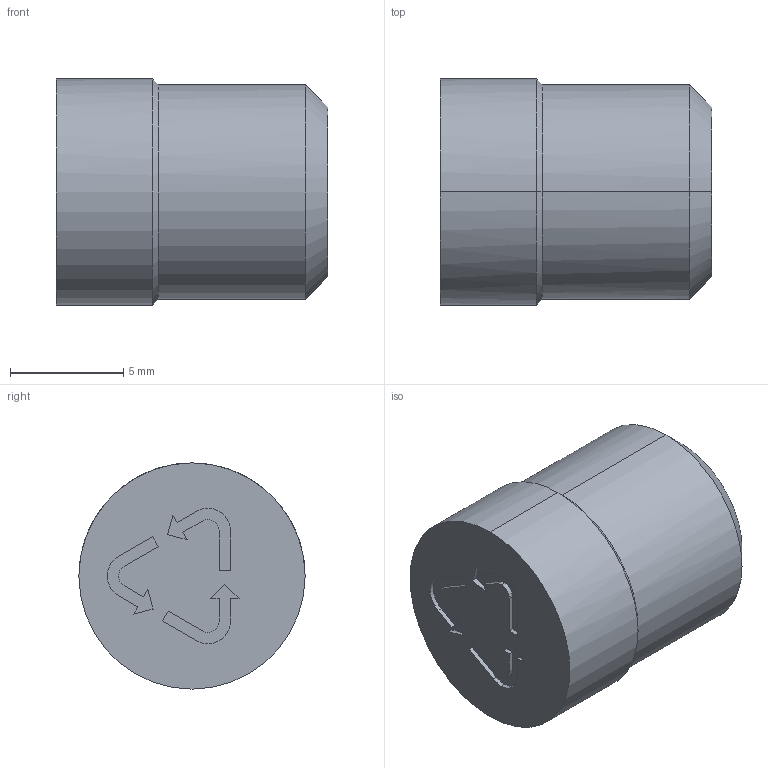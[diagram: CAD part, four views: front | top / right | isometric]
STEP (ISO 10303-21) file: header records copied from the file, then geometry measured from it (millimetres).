
FILE_DESCRIPTION(('CATIA V5 STEP Exchange'),'2;1');
FILE_NAME('C:\Users\Utente\Desktop\IO LAVORO\3D X SITO CF\X SITO\PLASTICA\CFMR\MN10.stp','2021-03-26T14:26:26+00:00',('none'),('none'),'CATIA Version 5 Release 20 GA (IN-10)','CATIA V5 STEP AP203','none');
FILE_SCHEMA(('CONFIG_CONTROL_DESIGN'));
Length unit declared in the file: millimetre
Products named in the file (1): MN10
Bounding box: 12 x 10 x 10 mm (x, y, z)
Volume: 811.7 mm3; surface area: 571.2 mm2
Topology: 1 solids, 1 shells, 56 faces, 159 edges, 107 vertices
Faces by surface type: plane 32, cylinder 16, cone 8
Entity records: 1885 total; most frequent: CARTESIAN_POINT 407, ORIENTED_EDGE 314, DIRECTION 259, EDGE_CURVE 157, VERTEX_POINT 107, VECTOR 105, LINE 105, AXIS2_PLACEMENT_3D 99
